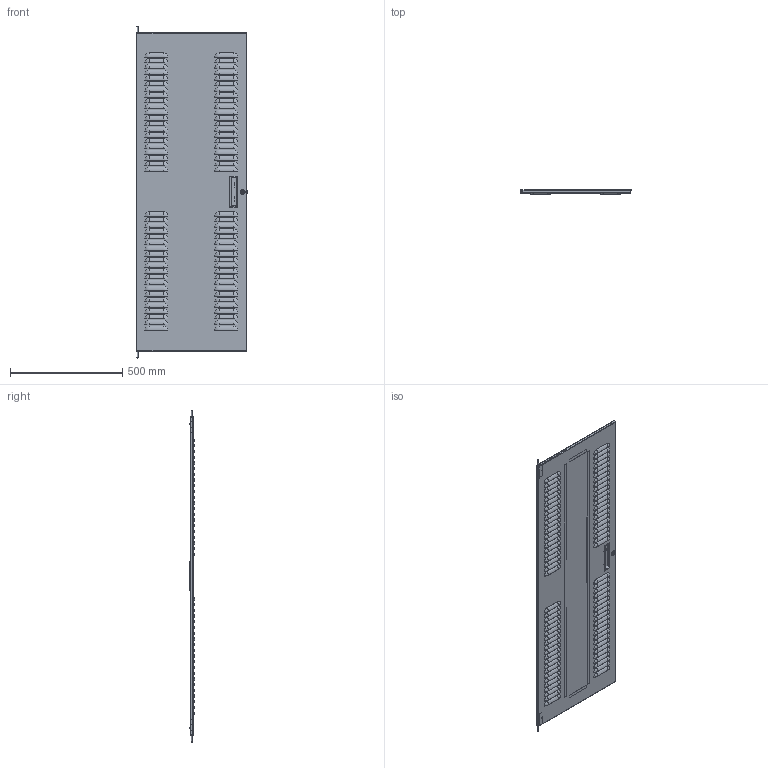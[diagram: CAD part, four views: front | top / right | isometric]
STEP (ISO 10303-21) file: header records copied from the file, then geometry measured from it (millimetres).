
FILE_DESCRIPTION( ( 'Unknown' ), '1' );
FILE_NAME( 'Q:/WEB DRAWINGS/STEP/CDF1956L.stp', 'Unknown', ( 'Unknown' ), ( 'Unknown' ), 'PSStep 17.0.49', 'Unknown', ' ' );
FILE_SCHEMA( ( 'AUTOMOTIVE_DESIGN { 1 0 10303 214 1 1 1 1 }' ) );
Length unit declared in the file: millimetre
Products named in the file (10): COM54617; HNG14581; std26020; COM53533; COM40862; Assem1; HAN13044; LOC13312; PIN17620
Assembly tree (11 placements, depth 4):
  Assem1
    HAN13044
    LOC13312
    PIN17620  x2
    COM53533
      COM40862
      COM53533
      COM54617  x2
        HNG14581
        std26020
Bounding box: 496.67 x 22.99 x 1476.65 mm (x, y, z)
Volume: 1439050.4 mm3; surface area: 2074179.6 mm2
Topology: 10 solids, 10 shells, 970 faces, 2905 edges, 1634 vertices
Faces by surface type: plane 371, sphere 336, cylinder 238, bspline 12, cone 9, torus 4
Full cylindrical faces by diameter (mm): 4.775 x2, 5.182 x2, 6.35 x8, 8.382 x1, 13.868 x1, 13.97 x1, 21.996 x1
Entity records: 37808 total; most frequent: CARTESIAN_POINT 5606, DIRECTION 5598, ORIENTED_EDGE 4936, EDGE_CURVE 2468, AXIS2_PLACEMENT_3D 2230, VERTEX_POINT 1578, CIRCLE 1282, LINE 1138
